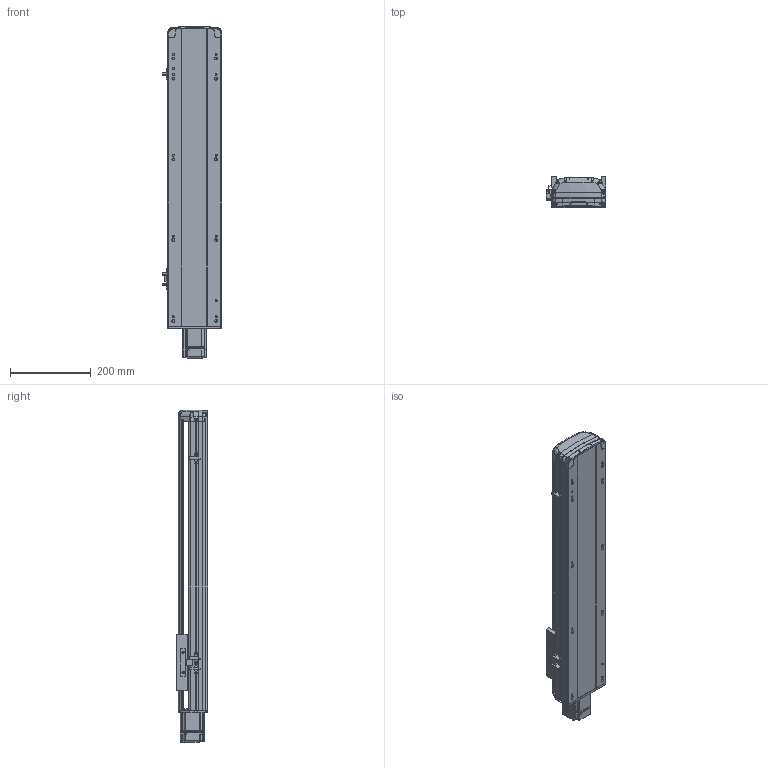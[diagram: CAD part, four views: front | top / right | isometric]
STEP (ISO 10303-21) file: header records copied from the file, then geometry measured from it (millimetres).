
FILE_DESCRIPTION (( 'STEP AP214' ), '1' );
FILE_NAME ('RTH14-XX-500-E-M20-C4.STEP', '2025-10-24T09:08:00', ( 'Microsoft' ), ( 'Microsoft' ), 'SwSTEP 2.0', 'SolidWorks 2018', '' );
FILE_SCHEMA (( 'AUTOMOTIVE_DESIGN' ));
Length unit declared in the file: millimetre
Products named in the file (9): RTH14-XX-500-E-M20-C4; N_RTH14-GY-001P^RTH14-XX-XX-E-M20-C4; N_RTH13-E-008萇儂耜猾裔^RTH14-XX-XX-E-M20-C4; N_OMRON EE-SX672 传感器^RTH14-XX-XX-E-M20-C4; N_MSMD022P1AA_200W^RTH14-XX-XX-E-M20-C4; N_RTH14-E-007P奻裔^RTH14-XX-XX-E-M20-C4; N_RTH14-E-011P菁釱^RTH14-XX-XX-E-M20-C4; N_RTH14-R-004-SFSR16賑釱^RTH14-XX-XX-E-M20-C4; N_RTH13-L-012感应片（外置）^RTH14-XX-XX-E-M20-C4
Assembly tree (10 placements, depth 2):
  RTH14-XX-500-E-M20-C4
    N_RTH14-E-011P菁釱^RTH14-XX-XX-E-M20-C4
    N_RTH14-E-007P奻裔^RTH14-XX-XX-E-M20-C4
    N_MSMD022P1AA_200W^RTH14-XX-XX-E-M20-C4
    N_RTH13-L-012感应片（外置）^RTH14-XX-XX-E-M20-C4
    N_OMRON EE-SX672 传感器^RTH14-XX-XX-E-M20-C4  x3
    N_RTH13-E-008萇儂耜猾裔^RTH14-XX-XX-E-M20-C4
    N_RTH14-R-004-SFSR16賑釱^RTH14-XX-XX-E-M20-C4
    N_RTH14-GY-001P^RTH14-XX-XX-E-M20-C4
Bounding box: 148.5 x 78.03 x 822.37 mm (x, y, z)
Volume: 3484398 mm3; surface area: 767105.1 mm2
Topology: 10 solids, 10 shells, 1867 faces, 5254 edges, 3452 vertices
Faces by surface type: plane 977, cylinder 500, bspline 341, cone 45, torus 4
Entity records: 57192 total; most frequent: CARTESIAN_POINT 22852, ORIENTED_EDGE 7576, DIRECTION 6111, EDGE_CURVE 3788, VERTEX_POINT 2488, LINE 2167, VECTOR 2167, AXIS2_PLACEMENT_3D 1972
